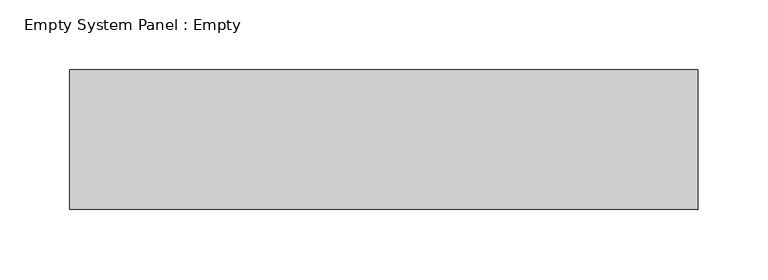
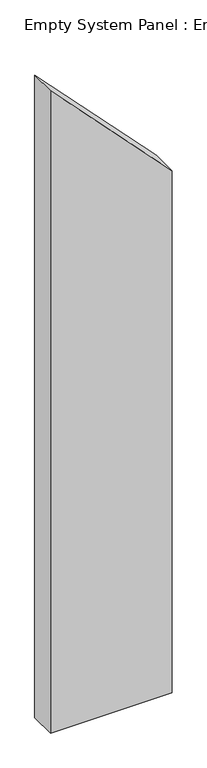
"""IFC4 building model written with IfcOpenShell, lengths in millimetres: plate geometry, Empty System Panel : Empty."""

import ifcopenshell
import ifcopenshell.guid

model = None  # the IFC model being written
_history = None  # IfcOwnerHistory: only IFC2X3 demands one
_inside = {}  # id of a spatial element -> (the spatial element, [elements in it])
_under = {}  # id of a project, library or spatial element -> (it, [spatial elements below it])
_declared = {}  # id of a project -> (the project, [libraries it declares])
_typed = {}  # id of a type object -> (the type object, [elements of that type])
_made_of = {}  # id of a material, layer set ... -> (it, [elements and type objects made of it])


def new_model(schema):
    """Start an empty IFC model of exactly this schema.

    Asked for "IFC4X3", IfcOpenShell would pick the latest addendum, in which some entities
    have other attributes; the version numbers below select the first issue.
    IFC2X3 requires an IfcOwnerHistory on every rooted entity: one is made here for all.
    """
    global model, _history
    if schema == "IFC4X3":
        model = ifcopenshell.file(schema_version=(4, 3, 0, 0))
    else:
        model = ifcopenshell.file(schema=schema)
    _inside.clear()
    _under.clear()
    _declared.clear()
    _typed.clear()
    _made_of.clear()
    _history = None
    if model.schema == "IFC2X3":
        org = make("IfcOrganization", Name="unknown")
        user = make(
            "IfcPersonAndOrganization",
            ThePerson=make("IfcPerson", FamilyName="unknown"),
            TheOrganization=org,
        )
        app = make(
            "IfcApplication",
            ApplicationDeveloper=org,
            Version="unknown",
            ApplicationFullName="unknown",
            ApplicationIdentifier="unknown",
        )
        _history = make(
            "IfcOwnerHistory",
            OwningUser=user,
            OwningApplication=app,
            ChangeAction="ADDED",
            CreationDate=0,
        )
    return model


def make(cls, **values):
    """One entity of the class cls with the attributes given. An attribute that is None is left unset."""
    return model.create_entity(
        cls, **{name: value for name, value in values.items() if value is not None}
    )


def rooted(cls, **values):
    """An entity with a GlobalId (a new one), such as an element, a storey or a relation."""
    return make(cls, GlobalId=ifcopenshell.guid.new(), OwnerHistory=_history, **values)


def si_unit(unit_type, name, prefix=None):
    """IfcSIUnit, for example si_unit("LENGTHUNIT", "METRE", prefix="MILLI")."""
    return make("IfcSIUnit", UnitType=unit_type, Prefix=prefix, Name=name)


def assignment(units):
    """IfcUnitAssignment: the units of a project."""
    return None if units is None else make("IfcUnitAssignment", Units=units)


def point(xyz):
    """IfcCartesianPoint."""
    return None if xyz is None else make("IfcCartesianPoint", Coordinates=xyz)


def direction(xyz):
    """IfcDirection."""
    return None if xyz is None else make("IfcDirection", DirectionRatios=xyz)


def frame(location, z_axis=None, x_axis=None):
    """IfcAxis2Placement3D, a coordinate frame: its origin and axes. An axis left out is left unset."""
    return make(
        "IfcAxis2Placement3D",
        Location=point(location),
        Axis=direction(z_axis),
        RefDirection=direction(x_axis),
    )


def origin():
    """The frame at (0, 0, 0) with its axes left unset."""
    return frame((0.0, 0.0, 0.0))


def place(relative_to, where):
    """IfcLocalPlacement: puts the frame where relative to a parent placement (None: the world)."""
    return make(
        "IfcLocalPlacement", PlacementRelTo=relative_to, RelativePlacement=where
    )


def context(
    kind, dimensions, precision=None, world=None, true_north=None, identifier=None
):
    """IfcGeometricRepresentationContext, for example the 3D "Model" context."""
    return make(
        "IfcGeometricRepresentationContext",
        ContextIdentifier=identifier,
        ContextType=kind,
        CoordinateSpaceDimension=dimensions,
        Precision=precision,
        WorldCoordinateSystem=world,
        TrueNorth=true_north,
    )


def project(units=None, contexts=None):
    """IfcProject with its units and contexts."""
    return rooted(
        "IfcProject",
        Name="project",
        RepresentationContexts=contexts,
        UnitsInContext=assignment(units),
    )


def spatial(cls, under=None, at=None, **own):
    """A site, building, storey or space (cls), placed at a placement, below another one or the project."""
    s = rooted(cls, ObjectPlacement=at, **own)
    if under is not None:
        _under.setdefault(under.id(), (under, []))[1].append(s)
    return s


def polyline(points):
    """IfcPolyline through the points."""
    return make("IfcPolyline", Points=[point(p) for p in points])


def outline(outer, holes=None, kind="AREA"):
    """IfcArbitraryClosedProfileDef: a profile drawn as a closed curve; with holes, ...WithVoids."""
    if holes is None:
        return make("IfcArbitraryClosedProfileDef", ProfileType=kind, OuterCurve=outer)
    return make(
        "IfcArbitraryProfileDefWithVoids",
        ProfileType=kind,
        OuterCurve=outer,
        InnerCurves=holes,
    )


def extrude(swept, where, along, depth):
    """IfcExtrudedAreaSolid: the profile swept, set in the frame where, extruded along a direction by depth."""
    return make(
        "IfcExtrudedAreaSolid",
        SweptArea=swept,
        Position=where,
        ExtrudedDirection=direction(along),
        Depth=depth,
    )


def shape(context_of_items, identifier, shape_type, items):
    """IfcShapeRepresentation: the items that make up one representation, for example the "Body"."""
    return make(
        "IfcShapeRepresentation",
        ContextOfItems=context_of_items,
        RepresentationIdentifier=identifier,
        RepresentationType=shape_type,
        Items=items,
    )


def source(mapping_origin, context_of_items, identifier, shape_type, items):
    """IfcRepresentationMap: a shape defined once, which mapped items show again and again."""
    return make(
        "IfcRepresentationMap",
        MappingOrigin=mapping_origin,
        MappedRepresentation=shape(context_of_items, identifier, shape_type, items),
    )


def transform(
    local_origin,
    x_axis=None,
    y_axis=None,
    z_axis=None,
    scale=None,
    scale2=None,
    scale3=None,
    uniform=True,
):
    """IfcCartesianTransformationOperator3D, or its non-uniform kind. x_axis, y_axis, z_axis: its Axis1, 2, 3."""
    if uniform:
        return make(
            "IfcCartesianTransformationOperator3D",
            Axis1=direction(x_axis),
            Axis2=direction(y_axis),
            LocalOrigin=point(local_origin),
            Scale=scale,
            Axis3=direction(z_axis),
        )
    return make(
        "IfcCartesianTransformationOperator3DnonUniform",
        Axis1=direction(x_axis),
        Axis2=direction(y_axis),
        LocalOrigin=point(local_origin),
        Scale=scale,
        Axis3=direction(z_axis),
        Scale2=scale2,
        Scale3=scale3,
    )


def mapped(mapping_source, mapping_target):
    """IfcMappedItem: shows the shape of a source again, moved by a transform."""
    return make(
        "IfcMappedItem", MappingSource=mapping_source, MappingTarget=mapping_target
    )


def made_of(thing, what):
    """Note that an element or type object is made of a material, layer set ...; save() writes the relation."""
    if what is not None:
        _made_of.setdefault(what.id(), (what, []))[1].append(thing)
    return thing


def element(
    cls,
    number,
    at=None,
    inside=None,
    cuts=None,
    type_object=None,
    material=None,
    context=None,
    identifier="Body",
    shape_type=None,
    held_by="IfcProductDefinitionShape",
    body=None,
    shapes=None,
    **own,
):
    """One element of the class cls, such as IfcWall. Its Tag is "e" and its number.

    at: its placement. inside: the storey or other place that contains it. cuts: it is an
    opening in that element (IfcRelVoidsElement). A single representation is given by context,
    identifier, shape_type and body (its items); several are given by shapes. held_by: the class
    of the entity that holds the representations. save() writes the other relations.
    """
    e = rooted(cls, Tag="e%d" % number, ObjectPlacement=at, **own)
    if body is not None:
        shapes = [shape(context, identifier, shape_type, body)]
    if shapes is not None:
        e.Representation = make(held_by, Representations=shapes)
    if inside is not None:
        _inside.setdefault(inside.id(), (inside, []))[1].append(e)
    if cuts is not None:
        rooted(
            "IfcRelVoidsElement", RelatingBuildingElement=cuts, RelatedOpeningElement=e
        )
    if type_object is not None:
        _typed.setdefault(type_object.id(), (type_object, []))[1].append(e)
    return made_of(e, material)


def aggregate(whole, parts):
    """IfcRelAggregates: a whole, such as a stair, and the parts it consists of."""
    return rooted("IfcRelAggregates", RelatingObject=whole, RelatedObjects=parts)


def save(model, path):
    """Write the relations noted so far, then the file.

    IfcRelAggregates (storeys below a building ...), IfcRelContainedInSpatialStructure (elements
    in a storey), IfcRelDefinesByType, IfcRelAssociatesMaterial and IfcRelDeclares: one each for
    every whole, place, type object, material and project.
    """
    for whole, parts in _under.values():
        aggregate(whole, parts)
    for where, things in _inside.values():
        rooted(
            "IfcRelContainedInSpatialStructure",
            RelatedElements=things,
            RelatingStructure=where,
        )
    for kind, things in _typed.values():
        rooted("IfcRelDefinesByType", RelatedObjects=things, RelatingType=kind)
    for what, things in _made_of.values():
        rooted("IfcRelAssociatesMaterial", RelatedObjects=things, RelatingMaterial=what)
    for by, libraries in _declared.values():
        rooted("IfcRelDeclares", RelatingContext=by, RelatedDefinitions=libraries)
    model.write(path)


def empty_system_panel_empty_1f9a8fa0(model_context):
    return source(origin(), model_context, "Body", "SweptSolid", [
        extrude(outline(polyline([(0.0, -225.0), (0.0, 225.0), (2041.8779066, 225.0), (2511.6916995, -225.0), (0.0, -225.0)])), frame((0.0, -50.0, 0.0), z_axis=(0.0, 1.0, 0.0), x_axis=(0.0, 0.0, 1.0)), (0.0, 0.0, 1.0), 100.0),
    ])


if __name__ == "__main__":
    model = new_model("IFC4")
    model_context = context("Model", 3, world=origin())
    ifc_project = project(units=[si_unit("LENGTHUNIT", "METRE", prefix="MILLI")], contexts=[model_context])
    site = spatial("IfcSite", under=ifc_project)
    building = spatial("IfcBuilding", under=site)
    placement = place(None, origin())
    empty_system_panel_empty_shape = empty_system_panel_empty_1f9a8fa0(model_context)
    element("IfcPlate", 1, ObjectType="Empty System Panel : Empty", at=placement, inside=building, context=model_context, shape_type="MappedRepresentation", body=[
        mapped(empty_system_panel_empty_shape, transform((0.0, 0.0, 0.0), x_axis=(1.0, 0.0, 0.0), y_axis=(0.0, 1.0, 0.0), z_axis=(0.0, 0.0, 1.0))),
    ])
    save(model, "model.ifc")
